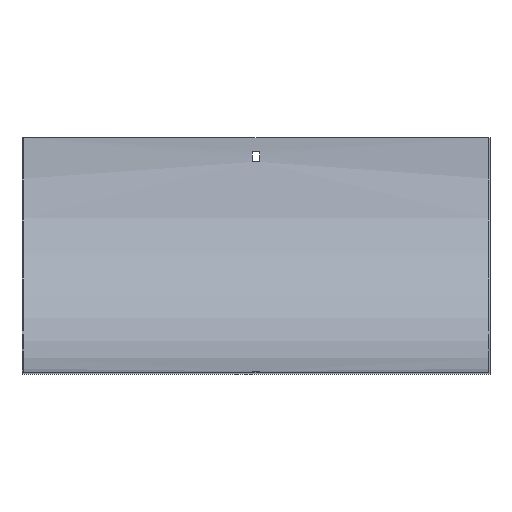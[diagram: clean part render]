
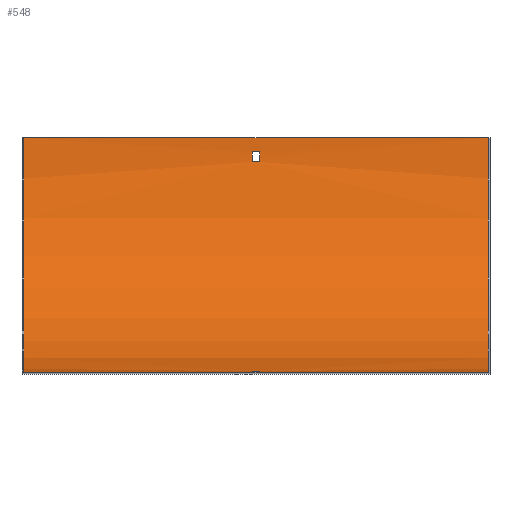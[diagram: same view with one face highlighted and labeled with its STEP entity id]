
A CAD part, front view. The second image highlights one B-rep face of the part: STEP entity #548.
In plain terms, the highlighted cylindrical face has radius 204 mm (diameter 408 mm), a partial arc.
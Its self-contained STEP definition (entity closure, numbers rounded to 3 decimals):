
#9 = CIRCLE ( 'NONE', #588, 204. ) ;
#11 = ORIENTED_EDGE ( 'NONE', *, *, #538, .F. ) ;
#24 = CARTESIAN_POINT ( 'NONE',  ( -3.25, -184.5, -202.916 ) ) ;
#26 = CARTESIAN_POINT ( 'NONE',  ( 3.25, -2.584, -21. ) ) ;
#30 = LINE ( 'NONE', #580, #83 ) ;
#39 = ORIENTED_EDGE ( 'NONE', *, *, #215, .T. ) ;
#49 = DIRECTION ( 'NONE',  ( -1., 0., 0. ) ) ;
#57 = EDGE_CURVE ( 'NONE', #189, #200, #553, .T. ) ;
#66 = CARTESIAN_POINT ( 'NONE',  ( 202., -1.5, 0. ) ) ;
#71 = CARTESIAN_POINT ( 'NONE',  ( 3.25, -1.853, -12. ) ) ;
#75 = CARTESIAN_POINT ( 'NONE',  ( 203.5, -184.5, -202.916 ) ) ;
#83 = VECTOR ( 'NONE', #542, 1000. ) ;
#85 = CARTESIAN_POINT ( 'NONE',  ( -202., -1.5, 0. ) ) ;
#89 = AXIS2_PLACEMENT_3D ( 'NONE', #333, #431, #375 ) ;
#111 = DIRECTION ( 'NONE',  ( 1., 0., 0. ) ) ;
#112 = ORIENTED_EDGE ( 'NONE', *, *, #448, .F. ) ;
#118 = CARTESIAN_POINT ( 'NONE',  ( 3.25, -205.5, 0. ) ) ;
#127 = LINE ( 'NONE', #75, #160 ) ;
#129 = EDGE_CURVE ( 'NONE', #460, #189, #127, .T. ) ;
#133 = CYLINDRICAL_SURFACE ( 'NONE', #274, 204. ) ;
#145 = CARTESIAN_POINT ( 'NONE',  ( 202., -1.5, 0. ) ) ;
#150 = CARTESIAN_POINT ( 'NONE',  ( 202., -205.5, 0. ) ) ;
#156 = ORIENTED_EDGE ( 'NONE', *, *, #430, .T. ) ;
#160 = VECTOR ( 'NONE', #256, 1000. ) ;
#161 = ORIENTED_EDGE ( 'NONE', *, *, #57, .T. ) ;
#168 = EDGE_CURVE ( 'NONE', #206, #531, #418, .T. ) ;
#176 = CARTESIAN_POINT ( 'NONE',  ( 203.5, -205.5, 0. ) ) ;
#189 = VERTEX_POINT ( 'NONE', #277 ) ;
#192 = EDGE_LOOP ( 'NONE', ( #315, #112, #11, #492 ) ) ;
#195 = CARTESIAN_POINT ( 'NONE',  ( -202., -205.5, -204. ) ) ;
#197 = DIRECTION ( 'NONE',  ( 0., 0., 1. ) ) ;
#200 = VERTEX_POINT ( 'NONE', #366 ) ;
#206 = VERTEX_POINT ( 'NONE', #272 ) ;
#215 = EDGE_CURVE ( 'NONE', #517, #460, #541, .T. ) ;
#222 = VECTOR ( 'NONE', #49, 1000. ) ;
#224 = DIRECTION ( 'NONE',  ( 1., 0., 0. ) ) ;
#233 = EDGE_CURVE ( 'NONE', #280, #351, #559, .T. ) ;
#241 = LINE ( 'NONE', #145, #222 ) ;
#256 = DIRECTION ( 'NONE',  ( 1., 0., 0. ) ) ;
#257 = ORIENTED_EDGE ( 'NONE', *, *, #129, .T. ) ;
#266 = VERTEX_POINT ( 'NONE', #85 ) ;
#267 = CARTESIAN_POINT ( 'NONE',  ( 3.25, -205.5, 0. ) ) ;
#272 = CARTESIAN_POINT ( 'NONE',  ( -3.25, -2.584, -21. ) ) ;
#274 = AXIS2_PLACEMENT_3D ( 'NONE', #176, #360, #502 ) ;
#277 = CARTESIAN_POINT ( 'NONE',  ( 3.25, -184.5, -202.916 ) ) ;
#280 = VERTEX_POINT ( 'NONE', #426 ) ;
#281 = VECTOR ( 'NONE', #607, 1000. ) ;
#311 = CARTESIAN_POINT ( 'NONE',  ( -202., -205.5, 0. ) ) ;
#315 = ORIENTED_EDGE ( 'NONE', *, *, #601, .F. ) ;
#319 = CARTESIAN_POINT ( 'NONE',  ( -3.25, -205.5, 0. ) ) ;
#320 = EDGE_CURVE ( 'NONE', #477, #266, #241, .T. ) ;
#322 = DIRECTION ( 'NONE',  ( -1., 0., 0. ) ) ;
#323 = AXIS2_PLACEMENT_3D ( 'NONE', #150, #111, #328 ) ;
#326 = DIRECTION ( 'NONE',  ( 1., 0., 0. ) ) ;
#328 = DIRECTION ( 'NONE',  ( 0., 0., 1. ) ) ;
#329 = ORIENTED_EDGE ( 'NONE', *, *, #572, .T. ) ;
#333 = CARTESIAN_POINT ( 'NONE',  ( -3.25, -205.5, 0. ) ) ;
#351 = VERTEX_POINT ( 'NONE', #195 ) ;
#352 = CIRCLE ( 'NONE', #89, 204. ) ;
#360 = DIRECTION ( 'NONE',  ( -1., 0., 0. ) ) ;
#366 = CARTESIAN_POINT ( 'NONE',  ( 3.25, -193.5, -203.647 ) ) ;
#370 = CIRCLE ( 'NONE', #395, 204. ) ;
#374 = DIRECTION ( 'NONE',  ( 0., 0., -1. ) ) ;
#375 = DIRECTION ( 'NONE',  ( 0., 0., 1. ) ) ;
#392 = CARTESIAN_POINT ( 'NONE',  ( 203.5, -193.5, -203.647 ) ) ;
#395 = AXIS2_PLACEMENT_3D ( 'NONE', #311, #481, #197 ) ;
#407 = VECTOR ( 'NONE', #322, 1000. ) ;
#408 = DIRECTION ( 'NONE',  ( -1., 0., 0. ) ) ;
#410 = FACE_BOUND ( 'NONE', #192, .T. ) ;
#412 = EDGE_LOOP ( 'NONE', ( #565, #438, #329, #514 ) ) ;
#418 = LINE ( 'NONE', #554, #281 ) ;
#422 = AXIS2_PLACEMENT_3D ( 'NONE', #118, #408, #593 ) ;
#426 = CARTESIAN_POINT ( 'NONE',  ( 202., -205.5, -204. ) ) ;
#430 = EDGE_CURVE ( 'NONE', #200, #517, #575, .T. ) ;
#431 = DIRECTION ( 'NONE',  ( -1., 0., 0. ) ) ;
#438 = ORIENTED_EDGE ( 'NONE', *, *, #233, .F. ) ;
#442 = DIRECTION ( 'NONE',  ( -1., 0., 0. ) ) ;
#445 = CARTESIAN_POINT ( 'NONE',  ( -3.25, -193.5, -203.647 ) ) ;
#448 = EDGE_CURVE ( 'NONE', #458, #496, #30, .T. ) ;
#450 = EDGE_LOOP ( 'NONE', ( #156, #39, #257, #161 ) ) ;
#451 = VECTOR ( 'NONE', #442, 1000. ) ;
#455 = DIRECTION ( 'NONE',  ( 0., 0., -1. ) ) ;
#458 = VERTEX_POINT ( 'NONE', #71 ) ;
#460 = VERTEX_POINT ( 'NONE', #24 ) ;
#477 = VERTEX_POINT ( 'NONE', #66 ) ;
#481 = DIRECTION ( 'NONE',  ( 1., 0., 0. ) ) ;
#492 = ORIENTED_EDGE ( 'NONE', *, *, #168, .F. ) ;
#496 = VERTEX_POINT ( 'NONE', #545 ) ;
#502 = DIRECTION ( 'NONE',  ( 0., 0., 1. ) ) ;
#508 = CARTESIAN_POINT ( 'NONE',  ( 202., -205.5, -204. ) ) ;
#514 = ORIENTED_EDGE ( 'NONE', *, *, #320, .T. ) ;
#517 = VERTEX_POINT ( 'NONE', #445 ) ;
#531 = VERTEX_POINT ( 'NONE', #26 ) ;
#538 = EDGE_CURVE ( 'NONE', #531, #458, #9, .T. ) ;
#541 = CIRCLE ( 'NONE', #578, 204. ) ;
#542 = DIRECTION ( 'NONE',  ( -1., 0., 0. ) ) ;
#545 = CARTESIAN_POINT ( 'NONE',  ( -3.25, -1.853, -12. ) ) ;
#548 = ADVANCED_FACE ( 'NONE', ( #410, #595, #549 ), #133, .F. ) ;
#549 = FACE_BOUND ( 'NONE', #450, .T. ) ;
#552 = CIRCLE ( 'NONE', #323, 204. ) ;
#553 = CIRCLE ( 'NONE', #422, 204. ) ;
#554 = CARTESIAN_POINT ( 'NONE',  ( 203.5, -2.584, -21. ) ) ;
#558 = EDGE_CURVE ( 'NONE', #351, #266, #370, .T. ) ;
#559 = LINE ( 'NONE', #508, #407 ) ;
#565 = ORIENTED_EDGE ( 'NONE', *, *, #558, .F. ) ;
#572 = EDGE_CURVE ( 'NONE', #280, #477, #552, .T. ) ;
#575 = LINE ( 'NONE', #392, #451 ) ;
#578 = AXIS2_PLACEMENT_3D ( 'NONE', #319, #326, #374 ) ;
#580 = CARTESIAN_POINT ( 'NONE',  ( 203.5, -1.853, -12. ) ) ;
#588 = AXIS2_PLACEMENT_3D ( 'NONE', #267, #224, #455 ) ;
#593 = DIRECTION ( 'NONE',  ( 0., 0., 1. ) ) ;
#595 = FACE_OUTER_BOUND ( 'NONE', #412, .T. ) ;
#601 = EDGE_CURVE ( 'NONE', #496, #206, #352, .T. ) ;
#607 = DIRECTION ( 'NONE',  ( 1., 0., 0. ) ) ;
